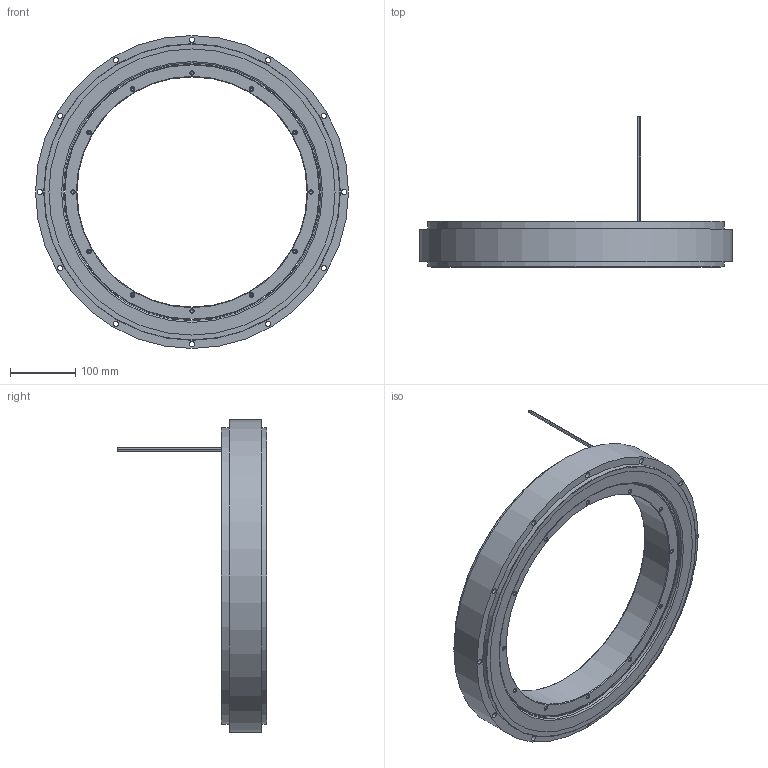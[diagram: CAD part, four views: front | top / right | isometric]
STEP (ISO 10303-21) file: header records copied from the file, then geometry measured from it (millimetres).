
FILE_DESCRIPTION(('STEP AP214'), '1');
FILE_NAME('楋樏襝鍱睯蜬蠈錪', '', ('UNSPECIFIED'), ('UNSPECIFIED'), 'C3D Converter', 'C3D Toolkit', '');
FILE_SCHEMA(('AUTOMOTIVE_DESIGN { 1 0 10303 214 3 1 1}'));
Length unit declared in the file: millimetre
Products named in the file (3): -03; МАНП.684252.020-11; МАНП.684222.023-11
Assembly tree (2 placements, depth 2):
  -03
    МАНП.684252.020-11
    МАНП.684222.023-11
Bounding box: 480 x 230 x 480 mm (x, y, z)
Volume: 4807691.8 mm3; surface area: 500192.7 mm2
Topology: 5 solids, 5 shells, 122 faces, 261 edges, 155 vertices
Faces by surface type: cone 50, cylinder 49, plane 16, torus 7
Full cylindrical faces by diameter (mm): 2.6 x3, 4.917 x24, 8.4 x12, 353 x1, 390.5 x1, 392 x1, 396 x2, 439 x2, 455 x2, 480 x1
Entity records: 3742 total; most frequent: DIRECTION 512, CARTESIAN_POINT 387, EDGE_LOOP 262, ORIENTED_EDGE 262, AXIS2_PLACEMENT_3D 256, FACE_OUTER_BOUND 188, EDGE_CURVE 131, VERTEX_POINT 131
